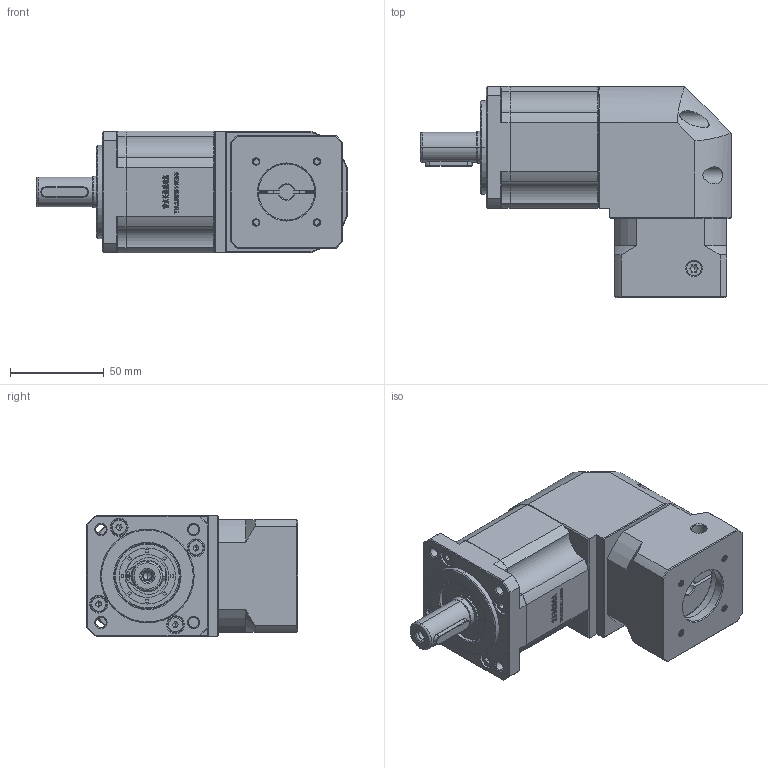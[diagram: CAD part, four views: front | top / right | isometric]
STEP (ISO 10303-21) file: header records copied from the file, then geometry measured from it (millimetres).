
FILE_DESCRIPTION (( 'STEP AP214' ), '1' );
FILE_NAME ('ZBR60-D16-L2-8-30-46-M4.STEP', '2022-04-19T08:16:34', ( '' ), ( 'Microsoft' ), 'SwSTEP 2.0', 'SolidWorks 2016', '' );
FILE_SCHEMA (( 'AUTOMOTIVE_DESIGN' ));
Length unit declared in the file: millimetre
Products named in the file (1): ZBR60-D16-L2-8-30-46-M4
Bounding box: 166 x 112.7 x 65 mm (x, y, z)
Volume: 595052.4 mm3; surface area: 83508.3 mm2
Topology: 5 solids, 5 shells, 2887 faces, 7847 edges, 5101 vertices
Faces by surface type: plane 1470, bspline 643, cylinder 416, cone 326, torus 32
Entity records: 176488 total; most frequent: CARTESIAN_POINT 76686, ORIENTED_EDGE 15650, DIRECTION 11682, EDGE_CURVE 7825, VERTEX_POINT 5101, LINE 5038, VECTOR 5038, AXIS2_PLACEMENT_3D 3322
